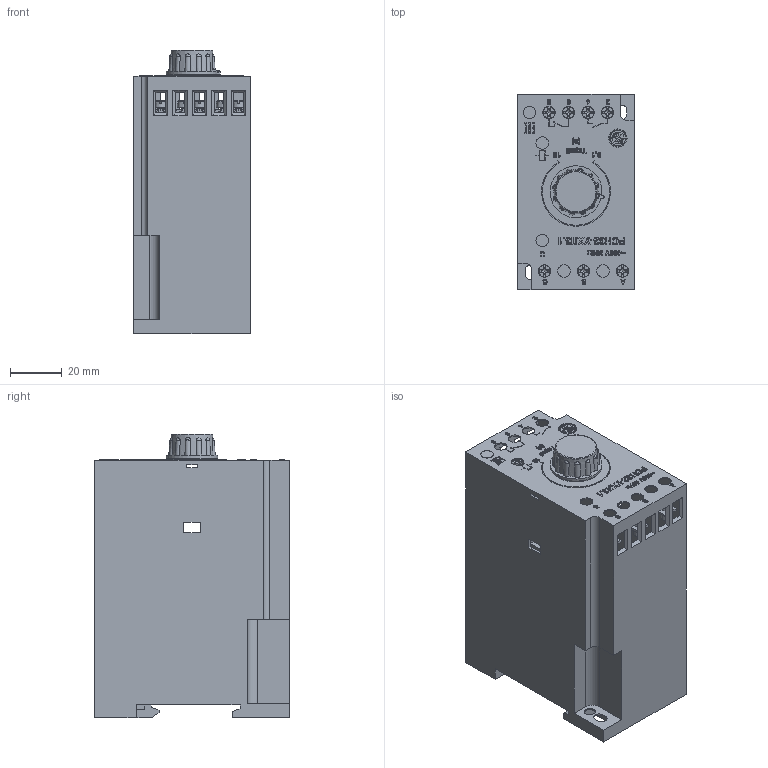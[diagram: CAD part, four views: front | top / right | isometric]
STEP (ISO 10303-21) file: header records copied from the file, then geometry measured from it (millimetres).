
FILE_DESCRIPTION(('STEP AP214'), '1');
FILE_NAME('ÐÑÍ32 (äëÿ çàêàç÷èêà)', '2025-06-18T13:06:33', (''), (''), 'ASCON STEP Converter 1.6', 'ASCON Math Kernel', '');
FILE_SCHEMA(('AUTOMOTIVE_DESIGN { 1 0 10303 214 3 1 1}'));
Length unit declared in the file: millimetre
Bounding box: 45 x 75 x 109.2 mm (x, y, z)
Volume: 31768.9 mm3; surface area: 62440.6 mm2
Topology: 15 solids, 15 shells, 2919 faces, 7964 edges, 5164 vertices
Faces by surface type: cylinder 1513, plane 1156, cone 115, bspline 99, torus 36
Full cylindrical faces by diameter (mm): 2.3 x7, 3 x7, 4.2 x2, 4.8 x12, 5.6 x1, 8.05 x1, 18.8 x1
Entity records: 128905 total; most frequent: CARTESIAN_POINT 30360, DIRECTION 16044, ORIENTED_EDGE 15810, EDGE_CURVE 7905, AXIS2_PLACEMENT_3D 5970, VERTEX_POINT 5164, LINE 4104, VECTOR 4104
